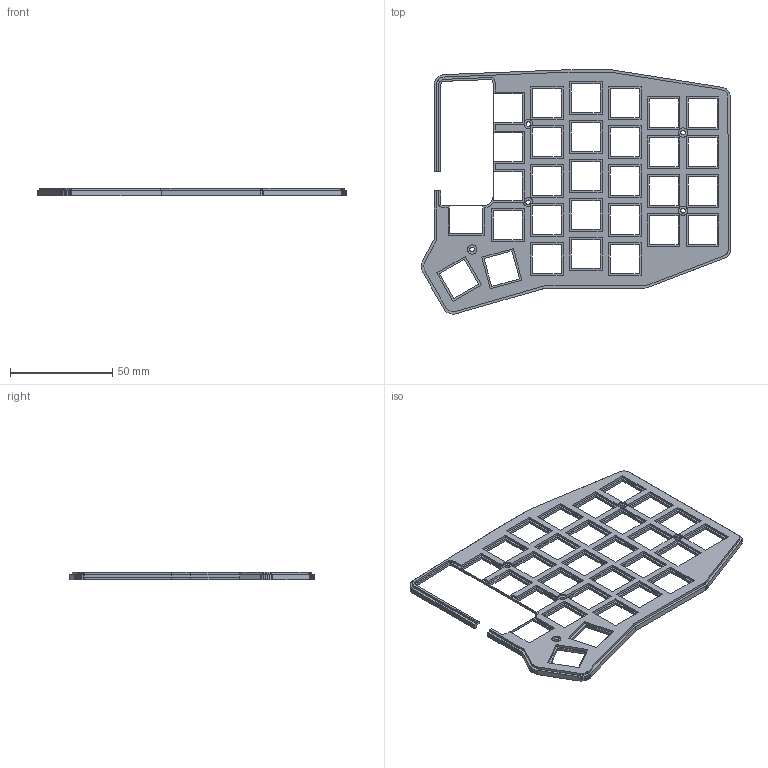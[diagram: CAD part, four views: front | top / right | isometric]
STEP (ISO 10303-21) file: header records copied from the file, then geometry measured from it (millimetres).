
FILE_DESCRIPTION(('Open CASCADE Model'),'2;1');
FILE_NAME('Open CASCADE Shape Model','2026-10-07T17:16:42',('Author'),( 'Open CASCADE'),'Open CASCADE STEP processor 8.0','build123d', 'Unknown');
FILE_SCHEMA(('AUTOMOTIVE_DESIGN { 1 0 10303 214 1 1 1 1 }'));
Length unit declared in the file: millimetre
Products named in the file (1): COMPOUND
Bounding box: 151.16 x 119.54 x 3.73 mm (x, y, z)
Volume: 16397.8 mm3; surface area: 22351.2 mm2
Topology: 1 solids, 1 shells, 533 faces, 1691 edges, 1180 vertices
Faces by surface type: plane 516, cylinder 17
Full cylindrical faces by diameter (mm): 2.3 x5, 4.5 x1
Entity records: 40210 total; most frequent: CARTESIAN_POINT 7485, DIRECTION 5677, LINE 4035, VECTOR 4035, ORIENTED_EDGE 3382, PCURVE 3382, DEFINITIONAL_REPRESENTATION 3382, EDGE_CURVE 1691
